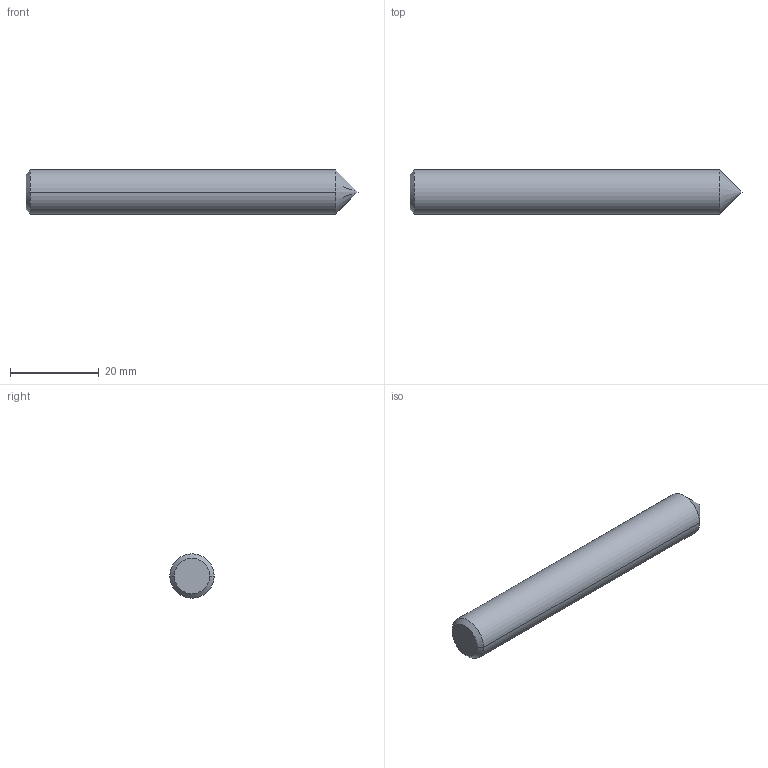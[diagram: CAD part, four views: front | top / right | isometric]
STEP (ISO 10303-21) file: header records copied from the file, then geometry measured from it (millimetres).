
FILE_DESCRIPTION (( 'STEP AP214' ), '1' );
FILE_NAME ('1879.STEP', '2021-06-07T07:35:23', ( '' ), ( '' ), 'SwSTEP 2.0', 'SolidWorks 2014', '' );
FILE_SCHEMA (( 'AUTOMOTIVE_DESIGN' ));
Length unit declared in the file: millimetre
Products named in the file (1): 1879
Bounding box: 75 x 10 x 10 mm (x, y, z)
Volume: 5614 mm3; surface area: 2526.1 mm2
Topology: 2 solids, 2 shells, 9 faces, 16 edges, 9 vertices
Faces by surface type: cone 4, plane 3, cylinder 2
Entity records: 328 total; most frequent: DIRECTION 42, CARTESIAN_POINT 33, ORIENTED_EDGE 28, AXIS2_PLACEMENT_3D 18, EDGE_CURVE 14, UNCERTAINTY_MEASURE_WITH_UNIT 11, SURFACE_STYLE_USAGE 10, PRESENTATION_LAYER_ASSIGNMENT 10
